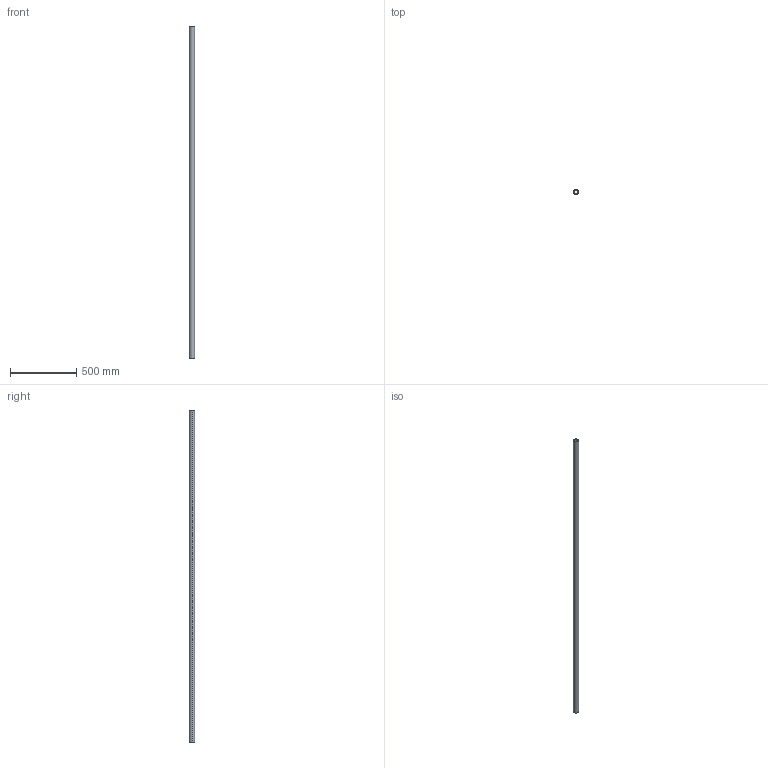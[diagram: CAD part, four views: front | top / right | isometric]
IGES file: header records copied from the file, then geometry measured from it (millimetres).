
Start section: SolidWorks IGES file using analytic representation for surfaces
Global section: file name: C:\Users\IanO\Desktop\L1771_v2\L1771.40_v2\L1771.40_v2_20230705_IGES\L1771.40-2500.igs; native system: SolidWorks 2019; preprocessor: SolidWorks 2019; author: IanO; date: 230705.161303; units: millimetre
Bounding box: 40 x 40 x 2500 mm (x, y, z)
Surface area: 535352.5 mm2 (no closed solid volume)
Topology: 0 solids, 0 shells, 6 faces, 272 edges, 272 vertices
Faces by surface type: revolution 4, bspline 2
